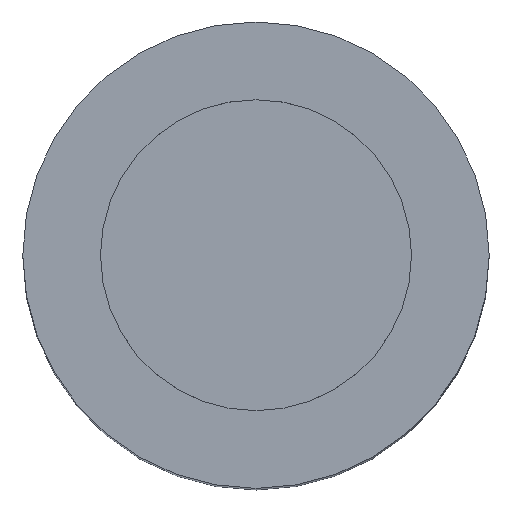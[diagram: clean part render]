
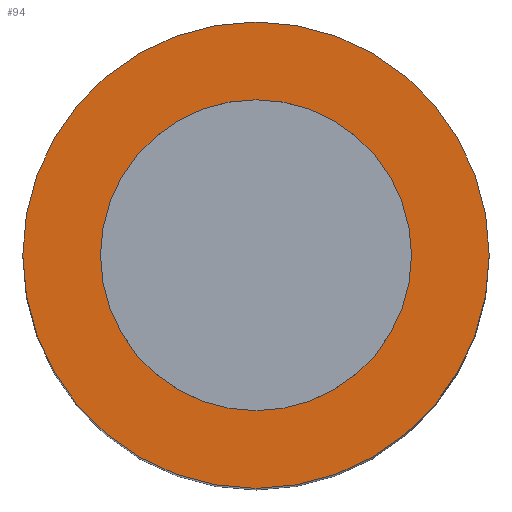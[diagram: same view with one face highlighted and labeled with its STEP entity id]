
A CAD part, top view. The second image highlights one B-rep face of the part: STEP entity #94.
In plain terms, the highlighted planar face has unit normal (0, 0, 1) as drawn and (-1, 0, 0) by its records, which use the part's own axes.
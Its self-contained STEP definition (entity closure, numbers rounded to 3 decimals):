
#44 = VERTEX_POINT ( 'NONE', #361 ) ;
#55 = EDGE_CURVE ( 'NONE', #44, #56, #373, .T. ) ;
#56 = VERTEX_POINT ( 'NONE', #382 ) ;
#60 = EDGE_CURVE ( 'NONE', #149, #61, #411, .T. ) ;
#61 = VERTEX_POINT ( 'NONE', #410 ) ;
#93 = EDGE_CURVE ( 'NONE', #56, #44, #224, .T. ) ;
#94 = ADVANCED_FACE ( 'NONE', ( #225, #219 ), #218, .F. ) ;
#95 = EDGE_LOOP ( 'NONE', ( #96, #114 ) ) ;
#96 = ORIENTED_EDGE ( 'NONE', *, *, #97, .F. ) ;
#97 = EDGE_CURVE ( 'NONE', #61, #149, #212, .T. ) ;
#114 = ORIENTED_EDGE ( 'NONE', *, *, #60, .F. ) ;
#115 = EDGE_LOOP ( 'NONE', ( #116, #117 ) ) ;
#116 = ORIENTED_EDGE ( 'NONE', *, *, #93, .F. ) ;
#117 = ORIENTED_EDGE ( 'NONE', *, *, #55, .F. ) ;
#149 = VERTEX_POINT ( 'NONE', #261 ) ;
#205 = DIRECTION ( 'NONE',  ( 0., 0., 1. ) ) ;
#207 = DIRECTION ( 'NONE',  ( -1., 0., 0. ) ) ;
#209 = CARTESIAN_POINT ( 'NONE',  ( 0., 0., 0. ) ) ;
#210 = AXIS2_PLACEMENT_3D ( 'NONE', #209, #207, #205 ) ;
#212 = CIRCLE ( 'NONE', #210, 1. ) ;
#214 = DIRECTION ( 'NONE',  ( 0., 0., -1. ) ) ;
#215 = DIRECTION ( 'NONE',  ( 1., 0., 0. ) ) ;
#216 = CARTESIAN_POINT ( 'NONE',  ( 0., 0., 0. ) ) ;
#217 = AXIS2_PLACEMENT_3D ( 'NONE', #216, #215, #214 ) ;
#218 = PLANE ( 'NONE',  #217 ) ;
#219 = FACE_OUTER_BOUND ( 'NONE', #115, .T. ) ;
#220 = DIRECTION ( 'NONE',  ( 0., 0., -1. ) ) ;
#221 = DIRECTION ( 'NONE',  ( 1., 0., 0. ) ) ;
#222 = CARTESIAN_POINT ( 'NONE',  ( 0., 0., 0. ) ) ;
#223 = AXIS2_PLACEMENT_3D ( 'NONE', #222, #221, #220 ) ;
#224 = CIRCLE ( 'NONE', #223, 1.5 ) ;
#225 = FACE_BOUND ( 'NONE', #95, .T. ) ;
#261 = CARTESIAN_POINT ( 'NONE',  ( 0., 0., -1. ) ) ;
#361 = CARTESIAN_POINT ( 'NONE',  ( 0., 0., -1.5 ) ) ;
#373 = CIRCLE ( 'NONE', #386, 1.5 ) ;
#382 = CARTESIAN_POINT ( 'NONE',  ( 0., 0., 1.5 ) ) ;
#383 = DIRECTION ( 'NONE',  ( 0., 0., -1. ) ) ;
#384 = DIRECTION ( 'NONE',  ( 1., 0., 0. ) ) ;
#385 = CARTESIAN_POINT ( 'NONE',  ( 0., 0., 0. ) ) ;
#386 = AXIS2_PLACEMENT_3D ( 'NONE', #385, #384, #383 ) ;
#406 = DIRECTION ( 'NONE',  ( 0., 0., 1. ) ) ;
#407 = DIRECTION ( 'NONE',  ( -1., 0., 0. ) ) ;
#408 = CARTESIAN_POINT ( 'NONE',  ( 0., 0., 0. ) ) ;
#409 = AXIS2_PLACEMENT_3D ( 'NONE', #408, #407, #406 ) ;
#410 = CARTESIAN_POINT ( 'NONE',  ( 0., 0., 1. ) ) ;
#411 = CIRCLE ( 'NONE', #409, 1. ) ;
